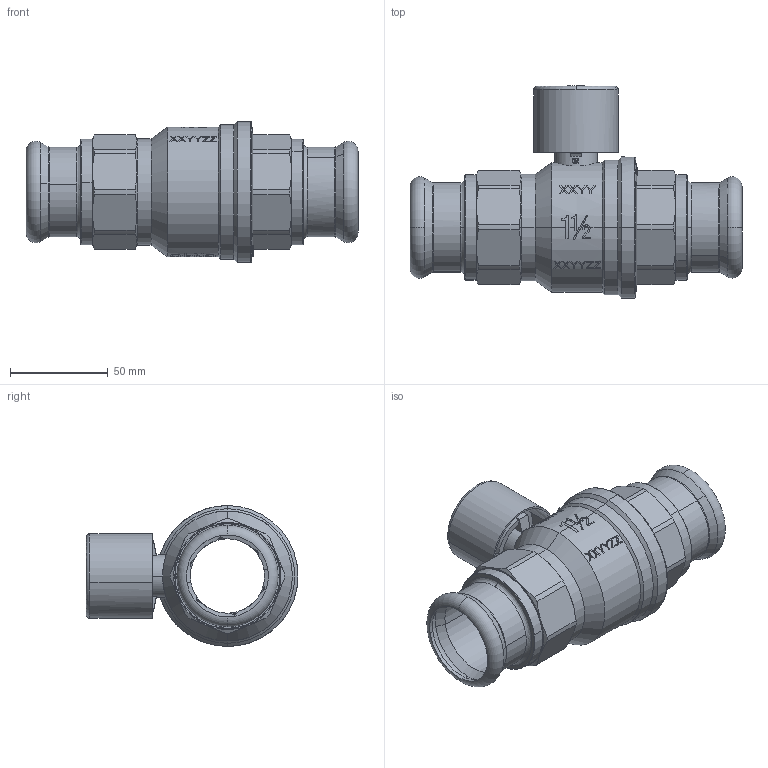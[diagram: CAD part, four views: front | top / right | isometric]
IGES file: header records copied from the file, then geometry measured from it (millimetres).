
Global section: file name: No Iges File Name specified; native system: AutoDesk Inventor R12.0; preprocessor: AutoDesk Inventor Iges Exporter R12.0; date: 20111122.090914; units: millimetre
Bounding box: 170.2 x 108.66 x 72.3 mm (x, y, z)
Volume: 232548.6 mm3; surface area: 83772.3 mm2
Topology: 1 solids, 1 shells, 979 faces, 2775 edges, 1866 vertices
Faces by surface type: plane 464, bspline 244, cylinder 93, cone 82, revolution 80, torus 16
